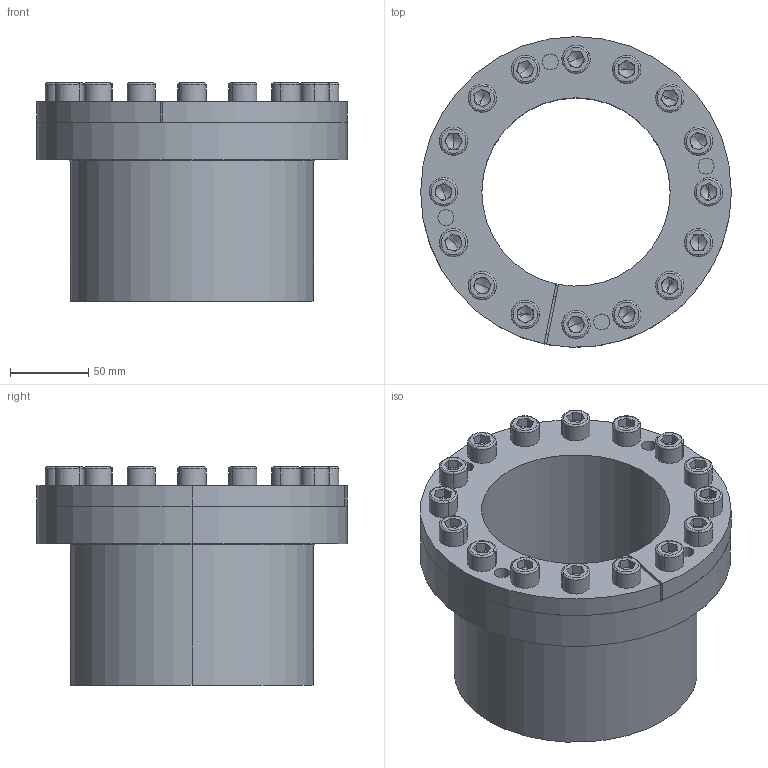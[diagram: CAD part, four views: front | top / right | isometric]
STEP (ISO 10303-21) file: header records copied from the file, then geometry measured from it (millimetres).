
FILE_DESCRIPTION (( 'STEP AP214' ), '1' );
FILE_NAME ('CONEX-B-120x155.step', '2013-04-04T12:42:47', ( 'Pc' ), ( '' ), 'SwSTEP 2.0', 'SolidWorks 2013', '' );
FILE_SCHEMA (( 'AUTOMOTIVE_DESIGN' ));
Length unit declared in the file: millimetre
Products named in the file (1): CONEX-B-120x155
Bounding box: 198 x 198 x 139.04 mm (x, y, z)
Volume: 1327271 mm3; surface area: 350488.4 mm2
Topology: 19 solids, 19 shells, 544 faces, 1242 edges, 736 vertices
Faces by surface type: plane 252, cylinder 152, torus 70, cone 70
Entity records: 21380 total; most frequent: DIRECTION 2874, CARTESIAN_POINT 2539, ORIENTED_EDGE 2420, EDGE_CURVE 1210, AXIS2_PLACEMENT_3D 1127, VERTEX_POINT 736, EDGE_LOOP 650, LINE 620
